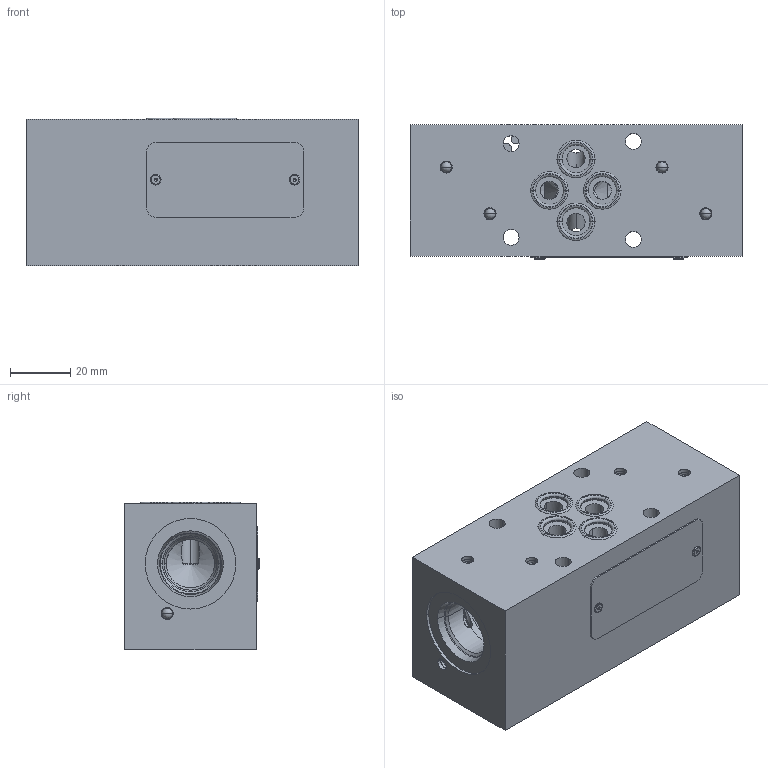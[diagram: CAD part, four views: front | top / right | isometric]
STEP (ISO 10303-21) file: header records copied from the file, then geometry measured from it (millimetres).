
FILE_DESCRIPTION((''),'2;1');
FILE_NAME('30851700_ASM','2023-10-13T',('l.soukupova'),(''),'PRO/ENGINEER BY PARAMETRIC TECHNOLOGY CORPORATION, 2015440','PRO/ENGINEER BY PARAMETRIC TECHNOLOGY CORPORATION, 2015440','');
FILE_SCHEMA(('AUTOMOTIVE_DESIGN { 1 0 10303 214 1 1 1 1 }'));
Length unit declared in the file: millimetre
Products named in the file (9): 30851500; RD_LABEL_25X52_159703; AF_1932_16485; ORAR00012_201524_AF0; ORAR00012_201524_AF1; ORAR00012_201524_AF2; ORAR00012_201524_AF3; MB850_040E; 30851700_ASM
Assembly tree (14 placements, depth 2):
  30851700_ASM
    30851500
    RD_LABEL_25X52_159703
    AF_1932_16485  x2
    ORAR00012_201524_AF0
    ORAR00012_201524_AF1
    ORAR00012_201524_AF2
    ORAR00012_201524_AF3
    MB850_040E  x6
Bounding box: 110 x 44.5 x 48.88 mm (x, y, z)
Volume: 198194.1 mm3; surface area: 43419.1 mm2
Topology: 14 solids, 18 shells, 448 faces, 1121 edges, 774 vertices
Faces by surface type: cone 192, cylinder 160, plane 48, torus 36, sphere 12
Entity records: 14864 total; most frequent: CARTESIAN_POINT 3237, DIRECTION 1672, ORIENTED_EDGE 1242, PRESENTATION_STYLE_ASSIGNMENT 927, STYLED_ITEM 799, CURVE_STYLE 788, AXIS2_PLACEMENT_3D 681, EDGE_CURVE 629
